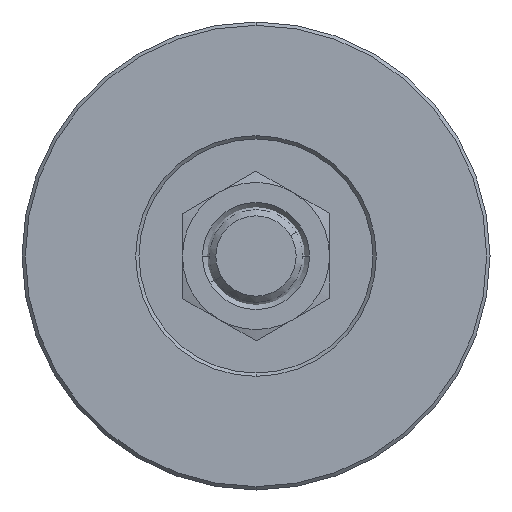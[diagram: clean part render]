
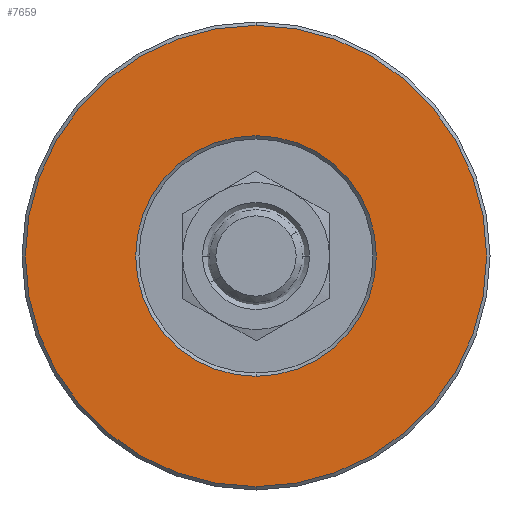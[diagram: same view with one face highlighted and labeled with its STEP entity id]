
A CAD part, front view. The second image highlights one B-rep face of the part: STEP entity #7659.
In plain terms, the highlighted planar face has unit normal (0, -1, 0).
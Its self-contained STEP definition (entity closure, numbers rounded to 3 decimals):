
#262 = CARTESIAN_POINT ( 'NONE',  ( 0., 0., -18. ) ) ;
#294 = AXIS2_PLACEMENT_3D ( 'NONE', #4658, #2572, #7233 ) ;
#342 = DIRECTION ( 'NONE',  ( 0., 0., -1. ) ) ;
#595 = ORIENTED_EDGE ( 'NONE', *, *, #3295, .T. ) ;
#1051 = AXIS2_PLACEMENT_3D ( 'NONE', #3480, #6086, #2180 ) ;
#1532 = VERTEX_POINT ( 'NONE', #3522 ) ;
#1535 = EDGE_LOOP ( 'NONE', ( #4854, #7663 ) ) ;
#2068 = AXIS2_PLACEMENT_3D ( 'NONE', #7528, #3550, #342 ) ;
#2180 = DIRECTION ( 'NONE',  ( 0., 0., -1. ) ) ;
#2572 = DIRECTION ( 'NONE',  ( 0., -1., 0. ) ) ;
#3053 = FACE_OUTER_BOUND ( 'NONE', #1535, .T. ) ;
#3164 = VERTEX_POINT ( 'NONE', #6538 ) ;
#3265 = FACE_BOUND ( 'NONE', #6182, .T. ) ;
#3295 = EDGE_CURVE ( 'NONE', #1532, #7044, #6700, .T. ) ;
#3480 = CARTESIAN_POINT ( 'NONE',  ( 0., 0., 0. ) ) ;
#3522 = CARTESIAN_POINT ( 'NONE',  ( 0., 0., 18. ) ) ;
#3550 = DIRECTION ( 'NONE',  ( 0., 1., 0. ) ) ;
#3583 = CIRCLE ( 'NONE', #2068, 18. ) ;
#3892 = EDGE_CURVE ( 'NONE', #7330, #3164, #8609, .T. ) ;
#4658 = CARTESIAN_POINT ( 'NONE',  ( 17.5, 0., 0. ) ) ;
#4718 = CARTESIAN_POINT ( 'NONE',  ( 0., 0., 0. ) ) ;
#4854 = ORIENTED_EDGE ( 'NONE', *, *, #6798, .T. ) ;
#5258 = ORIENTED_EDGE ( 'NONE', *, *, #8368, .T. ) ;
#6086 = DIRECTION ( 'NONE',  ( 0., -1., 0. ) ) ;
#6108 = DIRECTION ( 'NONE',  ( 0., 1., 0. ) ) ;
#6182 = EDGE_LOOP ( 'NONE', ( #5258, #595 ) ) ;
#6337 = CARTESIAN_POINT ( 'NONE',  ( 0., 0., -34.5 ) ) ;
#6507 = CARTESIAN_POINT ( 'NONE',  ( 0., 0., 0. ) ) ;
#6538 = CARTESIAN_POINT ( 'NONE',  ( 0., 0., 34.5 ) ) ;
#6700 = CIRCLE ( 'NONE', #6847, 18. ) ;
#6718 = DIRECTION ( 'NONE',  ( 0., 0., -1. ) ) ;
#6798 = EDGE_CURVE ( 'NONE', #3164, #7330, #7137, .T. ) ;
#6847 = AXIS2_PLACEMENT_3D ( 'NONE', #4718, #6108, #6718 ) ;
#6973 = AXIS2_PLACEMENT_3D ( 'NONE', #6507, #7164, #7849 ) ;
#7044 = VERTEX_POINT ( 'NONE', #262 ) ;
#7137 = CIRCLE ( 'NONE', #1051, 34.5 ) ;
#7164 = DIRECTION ( 'NONE',  ( 0., -1., 0. ) ) ;
#7176 = PLANE ( 'NONE',  #294 ) ;
#7233 = DIRECTION ( 'NONE',  ( 0., 0., -1. ) ) ;
#7330 = VERTEX_POINT ( 'NONE', #6337 ) ;
#7528 = CARTESIAN_POINT ( 'NONE',  ( 0., 0., 0. ) ) ;
#7659 = ADVANCED_FACE ( 'NONE', ( #3053, #3265 ), #7176, .T. ) ;
#7663 = ORIENTED_EDGE ( 'NONE', *, *, #3892, .T. ) ;
#7849 = DIRECTION ( 'NONE',  ( 0., 0., -1. ) ) ;
#8368 = EDGE_CURVE ( 'NONE', #7044, #1532, #3583, .T. ) ;
#8609 = CIRCLE ( 'NONE', #6973, 34.5 ) ;
